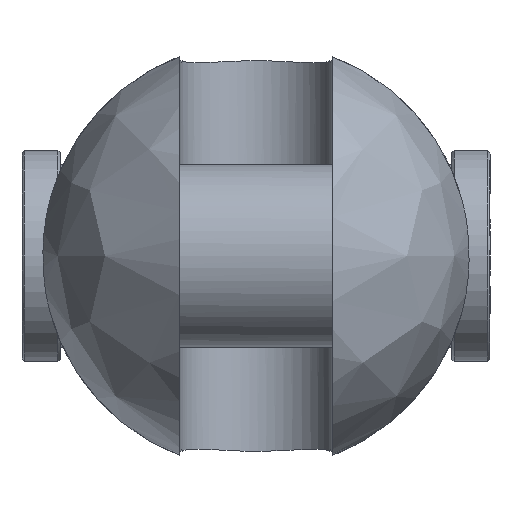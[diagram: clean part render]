
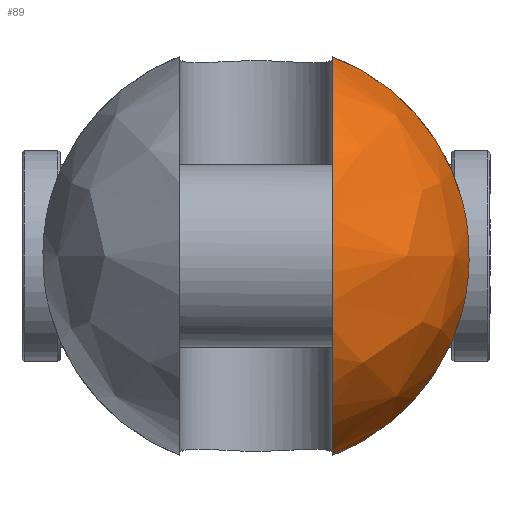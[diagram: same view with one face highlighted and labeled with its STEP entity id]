
A CAD part, left-side view. The second image highlights one B-rep face of the part: STEP entity #89.
In plain terms, the highlighted free-form (B-spline) face has degree [2, 2] with [9, 5] control points.
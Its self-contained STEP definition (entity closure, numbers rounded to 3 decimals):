
#89=ADVANCED_FACE('',(#164),#1306,.T.);
#164=FACE_OUTER_BOUND('',#249,.T.);
#249=EDGE_LOOP('',(#583,#584,#585,#586));
#583=ORIENTED_EDGE('',*,*,#811,.T.);
#584=ORIENTED_EDGE('',*,*,#835,.F.);
#585=ORIENTED_EDGE('',*,*,#847,.T.);
#586=ORIENTED_EDGE('',*,*,#827,.F.);
#811=EDGE_CURVE('',#1192,#1191,#1045,.T.);
#827=EDGE_CURVE('',#1192,#1204,#1055,.T.);
#835=EDGE_CURVE('',#1211,#1191,#1056,.T.);
#847=EDGE_CURVE('',#1211,#1204,#963,.T.);
#963=B_SPLINE_CURVE_WITH_KNOTS('',3,(#3144,#3145,#3146,#3147,#3148,#3149,
#3150,#3151,#3152,#3153,#3154,#3155,#3156,#3157),.UNSPECIFIED.,.F.,.F.,
(4,2,2,2,2,2,4),(0.,1.664,6.836,12.009,
17.181,22.354,24.018),.UNSPECIFIED.);
#1045=(
BOUNDED_CURVE()
B_SPLINE_CURVE(2,(#2920,#2921,#2922,#2923,#2924),.UNSPECIFIED.,.F.,.F.)
B_SPLINE_CURVE_WITH_KNOTS((3,2,3),(-130.452,-65.226,0.),
 .UNSPECIFIED.)
CURVE()
GEOMETRIC_REPRESENTATION_ITEM()
RATIONAL_B_SPLINE_CURVE((1.,0.707,1.,0.707,1.))
REPRESENTATION_ITEM('')
);
#1055=(
BOUNDED_CURVE()
B_SPLINE_CURVE(2,(#3014,#3015,#3016),.UNSPECIFIED.,.F.,.F.)
B_SPLINE_CURVE_WITH_KNOTS((3,3),(0.,42.049),.UNSPECIFIED.)
CURVE()
GEOMETRIC_REPRESENTATION_ITEM()
RATIONAL_B_SPLINE_CURVE((1.,0.89,1.))
REPRESENTATION_ITEM('')
);
#1056=(
BOUNDED_CURVE()
B_SPLINE_CURVE(2,(#3071,#3072,#3073),.UNSPECIFIED.,.F.,.F.)
B_SPLINE_CURVE_WITH_KNOTS((3,3),(0.,42.049),.UNSPECIFIED.)
CURVE()
GEOMETRIC_REPRESENTATION_ITEM()
RATIONAL_B_SPLINE_CURVE((1.,0.89,1.))
REPRESENTATION_ITEM('')
);
#1191=VERTEX_POINT('',#2837);
#1192=VERTEX_POINT('',#2838);
#1204=VERTEX_POINT('',#2850);
#1211=VERTEX_POINT('',#2857);
#1306=(
BOUNDED_SURFACE()
B_SPLINE_SURFACE(2,2,((#2445,#2446,#2447,#2448,#2449),(#2450,#2451,#2452,
#2453,#2454),(#2455,#2456,#2457,#2458,#2459),(#2460,#2461,#2462,#2463,#2464),
(#2465,#2466,#2467,#2468,#2469),(#2470,#2471,#2472,#2473,#2474),(#2475,
#2476,#2477,#2478,#2479),(#2480,#2481,#2482,#2483,#2484),(#2485,#2486,#2487,
#2488,#2489)),.UNSPECIFIED.,.T.,.F.,.F.)
B_SPLINE_SURFACE_WITH_KNOTS((3,2,2,2,3),(3,2,3),(0.,69.9,139.801,
209.701,279.602),(0.,69.9,139.801),
 .UNSPECIFIED.)
GEOMETRIC_REPRESENTATION_ITEM()
RATIONAL_B_SPLINE_SURFACE(((1.,0.707,1.,0.707,1.),
(0.707,0.5,0.707,0.5,0.707),(1.,0.707,
1.,0.707,1.),(0.707,0.5,0.707,0.5,0.707),
(1.,0.707,1.,0.707,1.),(0.707,0.5,0.707,
0.5,0.707),(1.,0.707,1.,0.707,1.),(0.707,
0.5,0.707,0.5,0.707),(1.,0.707,1.,0.707,
1.)))
REPRESENTATION_ITEM('')
SURFACE()
);
#2445=CARTESIAN_POINT('',(-64.5,0.,0.));
#2446=CARTESIAN_POINT('',(-64.5,44.5,0.));
#2447=CARTESIAN_POINT('',(-20.,44.5,0.));
#2448=CARTESIAN_POINT('',(24.5,44.5,0.));
#2449=CARTESIAN_POINT('',(24.5,0.,0.));
#2450=CARTESIAN_POINT('',(-64.5,0.,0.));
#2451=CARTESIAN_POINT('',(-64.5,44.5,44.5));
#2452=CARTESIAN_POINT('',(-20.,44.5,44.5));
#2453=CARTESIAN_POINT('',(24.5,44.5,44.5));
#2454=CARTESIAN_POINT('',(24.5,0.,0.));
#2455=CARTESIAN_POINT('',(-64.5,0.,0.));
#2456=CARTESIAN_POINT('',(-64.5,0.,44.5));
#2457=CARTESIAN_POINT('',(-20.,0.,44.5));
#2458=CARTESIAN_POINT('',(24.5,0.,44.5));
#2459=CARTESIAN_POINT('',(24.5,0.,0.));
#2460=CARTESIAN_POINT('',(-64.5,0.,0.));
#2461=CARTESIAN_POINT('',(-64.5,-44.5,44.5));
#2462=CARTESIAN_POINT('',(-20.,-44.5,44.5));
#2463=CARTESIAN_POINT('',(24.5,-44.5,44.5));
#2464=CARTESIAN_POINT('',(24.5,0.,0.));
#2465=CARTESIAN_POINT('',(-64.5,0.,0.));
#2466=CARTESIAN_POINT('',(-64.5,-44.5,0.));
#2467=CARTESIAN_POINT('',(-20.,-44.5,0.));
#2468=CARTESIAN_POINT('',(24.5,-44.5,0.));
#2469=CARTESIAN_POINT('',(24.5,0.,0.));
#2470=CARTESIAN_POINT('',(-64.5,0.,0.));
#2471=CARTESIAN_POINT('',(-64.5,-44.5,-44.5));
#2472=CARTESIAN_POINT('',(-20.,-44.5,-44.5));
#2473=CARTESIAN_POINT('',(24.5,-44.5,-44.5));
#2474=CARTESIAN_POINT('',(24.5,0.,0.));
#2475=CARTESIAN_POINT('',(-64.5,0.,0.));
#2476=CARTESIAN_POINT('',(-64.5,0.,-44.5));
#2477=CARTESIAN_POINT('',(-20.,0.,-44.5));
#2478=CARTESIAN_POINT('',(24.5,0.,-44.5));
#2479=CARTESIAN_POINT('',(24.5,0.,0.));
#2480=CARTESIAN_POINT('',(-64.5,0.,0.));
#2481=CARTESIAN_POINT('',(-64.5,44.5,-44.5));
#2482=CARTESIAN_POINT('',(-20.,44.5,-44.5));
#2483=CARTESIAN_POINT('',(24.5,44.5,-44.5));
#2484=CARTESIAN_POINT('',(24.5,0.,0.));
#2485=CARTESIAN_POINT('',(-64.5,0.,0.));
#2486=CARTESIAN_POINT('',(-64.5,44.5,0.));
#2487=CARTESIAN_POINT('',(-20.,44.5,0.));
#2488=CARTESIAN_POINT('',(24.5,44.5,0.));
#2489=CARTESIAN_POINT('',(24.5,0.,0.));
#2837=CARTESIAN_POINT('',(-20.,-16.,-41.524));
#2838=CARTESIAN_POINT('',(-20.,-16.,41.524));
#2850=CARTESIAN_POINT('',(-20.,-43.026,11.358));
#2857=CARTESIAN_POINT('',(-20.,-43.026,-11.358));
#2920=CARTESIAN_POINT('',(-20.,-16.,41.524));
#2921=CARTESIAN_POINT('',(-61.524,-16.,41.524));
#2922=CARTESIAN_POINT('',(-61.524,-16.,0.));
#2923=CARTESIAN_POINT('',(-61.524,-16.,-41.524));
#2924=CARTESIAN_POINT('',(-20.,-16.,-41.524));
#3014=CARTESIAN_POINT('',(-20.,-16.,41.524));
#3015=CARTESIAN_POINT('',(-20.,-37.222,33.347));
#3016=CARTESIAN_POINT('',(-20.,-43.026,11.358));
#3071=CARTESIAN_POINT('',(-20.,-43.026,-11.358));
#3072=CARTESIAN_POINT('',(-20.,-37.222,-33.347));
#3073=CARTESIAN_POINT('',(-20.,-16.,-41.524));
#3144=CARTESIAN_POINT('',(-20.,-43.026,-11.358));
#3145=CARTESIAN_POINT('',(-20.27,-43.152,-10.882));
#3146=CARTESIAN_POINT('',(-20.524,-43.269,-10.395));
#3147=CARTESIAN_POINT('',(-21.497,-43.718,-8.355));
#3148=CARTESIAN_POINT('',(-22.065,-43.976,-6.715));
#3149=CARTESIAN_POINT('',(-22.816,-44.316,-3.37));
#3150=CARTESIAN_POINT('',(-23.,-44.399,-1.665));
#3151=CARTESIAN_POINT('',(-23.,-44.399,1.665));
#3152=CARTESIAN_POINT('',(-22.816,-44.316,3.37));
#3153=CARTESIAN_POINT('',(-22.065,-43.976,6.715));
#3154=CARTESIAN_POINT('',(-21.497,-43.718,8.355));
#3155=CARTESIAN_POINT('',(-20.524,-43.269,10.395));
#3156=CARTESIAN_POINT('',(-20.27,-43.152,10.882));
#3157=CARTESIAN_POINT('',(-20.,-43.026,11.358));
